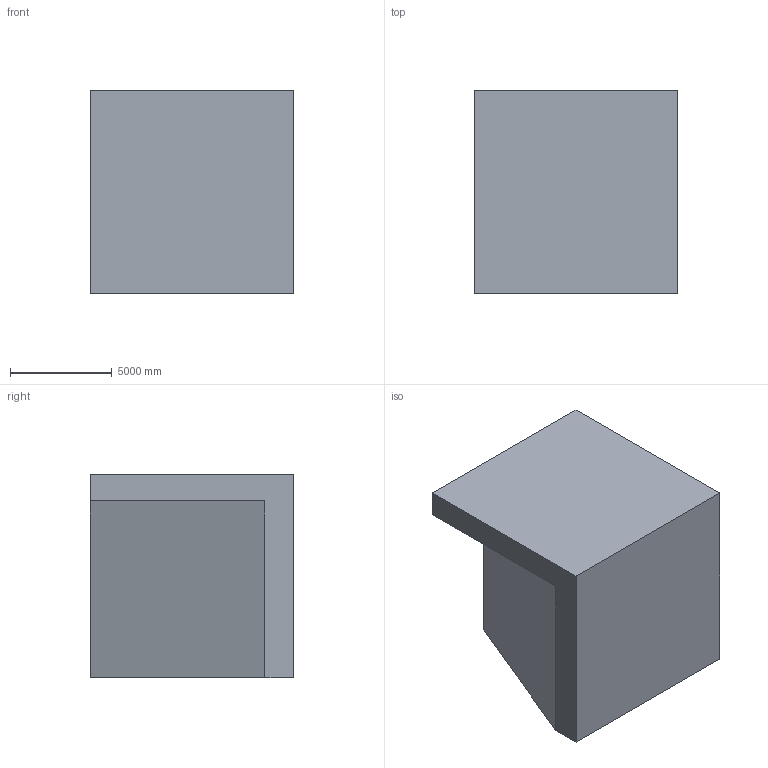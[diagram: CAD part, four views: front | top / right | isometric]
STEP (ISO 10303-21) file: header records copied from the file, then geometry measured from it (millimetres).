
FILE_DESCRIPTION (( 'STEP AP203' ), '1' );
FILE_NAME ('35.STEP', '2022-07-28T13:27:32', ( 'user' ), ( '' ), 'SwSTEP 2.0', 'SolidWorks 2021', '' );
FILE_SCHEMA (( 'CONFIG_CONTROL_DESIGN' ));
Length unit declared in the file: centimetre
Products named in the file (1): 35
Bounding box: 10000 x 10000 x 10000 mm (x, y, z)
Volume: 831548811141.1 mm3; surface area: 580202529.6 mm2
Topology: 1 solids, 1 shells, 12 faces, 30 edges, 20 vertices
Faces by surface type: plane 10, cylinder 2
Entity records: 435 total; most frequent: CARTESIAN_POINT 63, DIRECTION 60, ORIENTED_EDGE 60, EDGE_CURVE 30, VECTOR 26, LINE 26, VERTEX_POINT 20, AXIS2_PLACEMENT_3D 17
